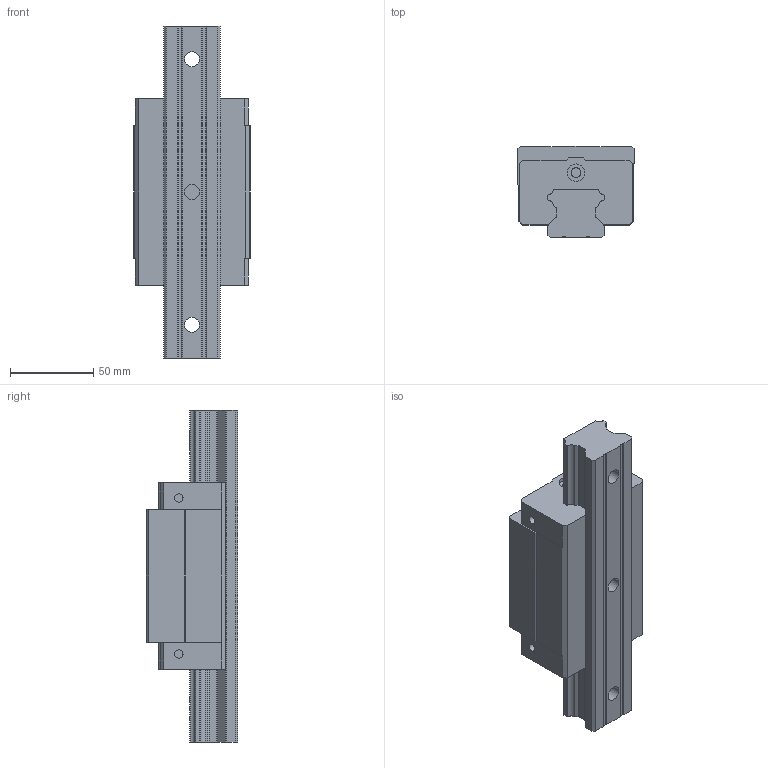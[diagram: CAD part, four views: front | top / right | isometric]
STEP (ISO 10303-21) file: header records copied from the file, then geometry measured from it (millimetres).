
FILE_DESCRIPTION((''),'2;1');
FILE_NAME('HGH35CA_ASM','2008-07-11T',('immo'),(''),'PRO/ENGINEER BY PARAMETRIC TECHNOLOGY CORPORATION, 2004360','PRO/ENGINEER BY PARAMETRIC TECHNOLOGY CORPORATION, 2004360','');
FILE_SCHEMA(('CONFIG_CONTROL_DESIGN'));
Length unit declared in the file: millimetre
Products named in the file (4): HGH35_1; HGR35_1; HGH35_ASM_2_ASM; HGH35CA_ASM
Assembly tree (3 placements, depth 3):
  HGH35CA_ASM
    HGH35_ASM_2_ASM
      HGH35_1
      HGR35_1
Bounding box: 70 x 55 x 200 mm (x, y, z)
Volume: 438042.9 mm3; surface area: 68798.7 mm2
Topology: 2 solids, 2 shells, 171 faces, 444 edges, 296 vertices
Faces by surface type: plane 109, cylinder 62
Entity records: 5380 total; most frequent: DIRECTION 928, CARTESIAN_POINT 920, ORIENTED_EDGE 888, EDGE_CURVE 444, VECTOR 320, LINE 320, AXIS2_PLACEMENT_3D 304, VERTEX_POINT 296
